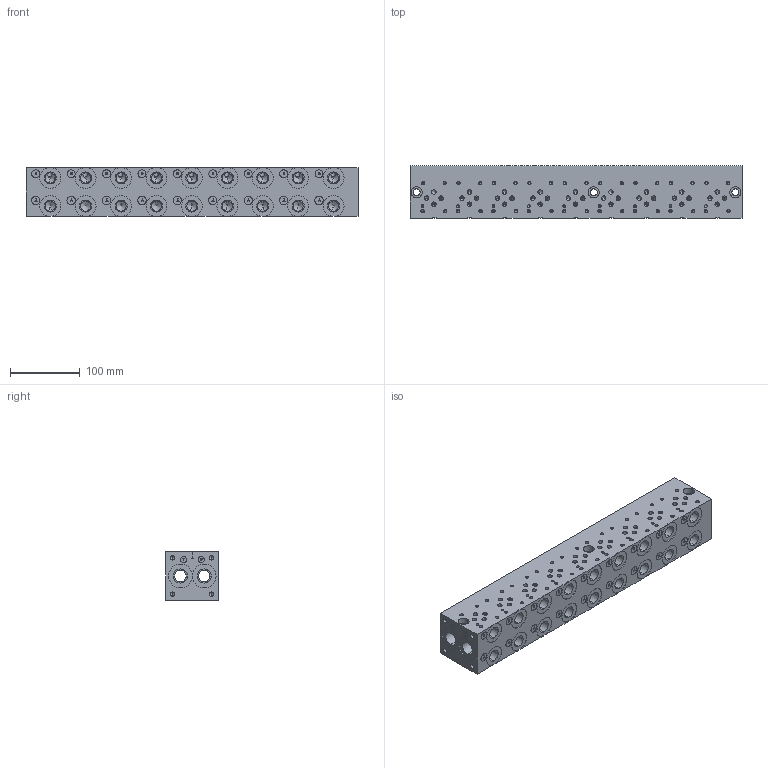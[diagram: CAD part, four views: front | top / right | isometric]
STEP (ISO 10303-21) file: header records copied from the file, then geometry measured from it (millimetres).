
FILE_DESCRIPTION (( 'STEP AP203' ), '1' );
FILE_NAME ('BM-ASP03S2-09-1_Z.STEP', '2015-01-06T15:40:50', ( '' ), ( '' ), 'SwSTEP 2.0', 'SolidWorks 2014', '' );
FILE_SCHEMA (( 'CONFIG_CONTROL_DESIGN' ));
Length unit declared in the file: inch
Products named in the file (1): BM-ASP03S2-09-1_Z
Bounding box: 476.25 x 74.93 x 69.85 mm (x, y, z)
Volume: 2113829.6 mm3; surface area: 260042.6 mm2
Topology: 1 solids, 1 shells, 1121 faces, 2863 edges, 1755 vertices
Faces by surface type: cylinder 448, plane 379, cone 201, bspline 93
Entity records: 40604 total; most frequent: CARTESIAN_POINT 14451, ORIENTED_EDGE 5378, DIRECTION 5218, EDGE_CURVE 2689, AXIS2_PLACEMENT_3D 1894, VERTEX_POINT 1755, LINE 1430, VECTOR 1430
